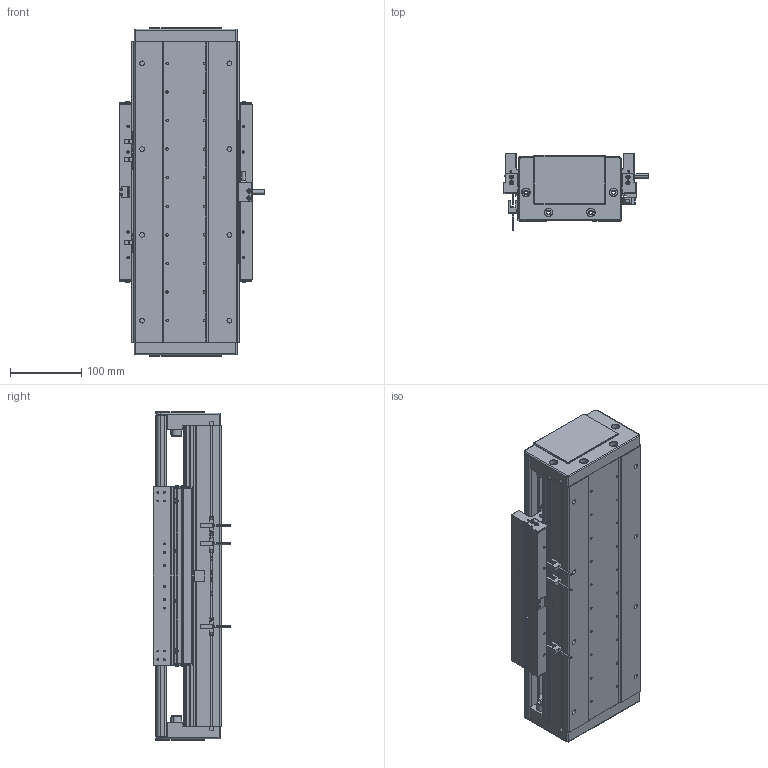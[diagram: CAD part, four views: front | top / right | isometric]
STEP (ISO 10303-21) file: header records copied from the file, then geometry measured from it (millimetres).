
FILE_DESCRIPTION (( 'STEP AP203' ), '1' );
FILE_NAME ('DA-C145-C3-T120-C010-0.2 眻盄萇儂.STEP', '2025-08-14T01:14:22', ( '' ), ( '' ), 'SwSTEP 2.0', 'SolidWorks 2019', '' );
FILE_SCHEMA (( 'CONFIG_CONTROL_DESIGN' ));
Length unit declared in the file: millimetre
Products named in the file (29): 66245-CU145-HT-W-00 賑雄怢啣(3D芞祧)(00); 葩璃 DA95-GT-T-00^IU-CU145-L 菁釱絳寢; 复件 半圆头内六角螺钉 M3×6^CU145-W 滚珠滑台; 葩璃 XD-U-02L 棠掑喜^DA-C145-C3-T-C010-0.2; IU-CU145-L 菁釱絳寢; 复件 DA95-MFP-01 密封片^CU145-W 滚珠滑台; 复件 DA145-C3-YB-B-00 压板B^CU145-W 滚珠滑台; 葩璃 DA145-T-003-00 裔啣^DA-C145-C3-T-C010-0.2; 复件 DA145-C3-DK-00 挡块^CU145-W 滚珠滑台; 葩璃 CKM03-W060-C1C2-TP-0.2^DA-C145-C3-T-C010-0.2; 葩璃 DMA-010-0.2 黍杅芛^DA-C145-C3-T-C010-0.2; 复件 DA95-DB-00  挡板^CU145-W 滚珠滑台; 葩璃 CKMA01-W060-TRL^DA-C145-C3-T-C010-0.2; TAY01-M8; 葩璃 DA145-C3-DP-A-00 菜えA^CU145-W 幗紩賑怢; 复件 内六角平端紧定螺钉 GB.T77-2000 M5×10^CU145-W 滚珠滑台; 葩璃 DA95-HXJ-00 遣喳砎蝶^DA-C145-C3-T-C010-0.2; 葩璃 鞠褒情蹟譫 M3^DA-C145-C3-T-C010-0.2; CU145-W 幗紩賑怢; 葩璃 DA145-DG-H-N-00 傷裔^DA-C145-C3-T-C010-0.2; 葩璃 PM-T45^DA-C145-C3-T-C010-0.2; 复件 DA95-HK-GT-00 滑块钢轨^CU145-W-00 一体化滑动台板; 葩璃 DA145-C3-DP-B-00 菜えB^CU145-W 幗紩賑怢; 复件 DA145-C3-YB-A-00 压板A^CU145-W 滚珠滑台; DA-C145-C3-T120-C010-0.2 眻盄萇儂; IU-CU145-L-00 菁釱(L420); 复件 DA145-GYP-00 光电感应片^DA-C145-C3-T-C010-0.2; CU145-W-00 珨极趙賑雄怢啣; 复件 纯铜油杯 6x6mm^CU145-W 滚珠滑台
Assembly tree (98 placements, depth 4):
  DA-C145-C3-T120-C010-0.2 眻盄萇儂
    IU-CU145-L 菁釱絳寢
      IU-CU145-L-00 菁釱(L420)
      葩璃 DA95-GT-T-00^IU-CU145-L 菁釱絳寢  x4
    CU145-W 幗紩賑怢
      CU145-W-00 珨极趙賑雄怢啣
        66245-CU145-HT-W-00 賑雄怢啣(3D芞祧)(00)
        复件 DA95-HK-GT-00 滑块钢轨^CU145-W-00 一体化滑动台板  x8
      复件 DA95-MFP-01 密封片^CU145-W 滚珠滑台  x8
      复件 DA95-DB-00  挡板^CU145-W 滚珠滑台  x8
      复件 内六角平端紧定螺钉 GB.T77-2000 M5×10^CU145-W 滚珠滑台  x4
      复件 纯铜油杯 6x6mm^CU145-W 滚珠滑台  x4
      复件 半圆头内六角螺钉 M3×6^CU145-W 滚珠滑台  x16
      复件 DA145-C3-DK-00 挡块^CU145-W 滚珠滑台  x4
      葩璃 DA145-C3-DP-B-00 菜えB^CU145-W 幗紩賑怢  x2
      复件 DA145-C3-YB-B-00 压板B^CU145-W 滚珠滑台  x2
      葩璃 DA145-C3-DP-A-00 菜えA^CU145-W 幗紩賑怢  x3
      复件 DA145-C3-YB-A-00 压板A^CU145-W 滚珠滑台  x3
      TAY01-M8  x4
    葩璃 CKMA01-W060-TRL^DA-C145-C3-T-C010-0.2
    葩璃 PM-T45^DA-C145-C3-T-C010-0.2  x3
    葩璃 XD-U-02L 棠掑喜^DA-C145-C3-T-C010-0.2
    葩璃 DA145-DG-H-N-00 傷裔^DA-C145-C3-T-C010-0.2  x2
    葩璃 DA145-T-003-00 裔啣^DA-C145-C3-T-C010-0.2
    葩璃 DA95-HXJ-00 遣喳砎蝶^DA-C145-C3-T-C010-0.2  x4
    复件 DA145-GYP-00 光电感应片^DA-C145-C3-T-C010-0.2
    葩璃 DMA-010-0.2 黍杅芛^DA-C145-C3-T-C010-0.2
    葩璃 CKM03-W060-C1C2-TP-0.2^DA-C145-C3-T-C010-0.2
    葩璃 鞠褒情蹟譫 M3^DA-C145-C3-T-C010-0.2  x8
Bounding box: 203.5 x 108.45 x 460 mm (x, y, z)
Volume: 4294220.4 mm3; surface area: 1120359.6 mm2
Topology: 95 solids, 127 shells, 3722 faces, 9543 edges, 5840 vertices
Faces by surface type: plane 1565, cylinder 1441, cone 626, torus 86, sphere 4
Entity records: 76689 total; most frequent: CARTESIAN_POINT 16860, DIRECTION 11805, ORIENTED_EDGE 11084, EDGE_CURVE 5542, AXIS2_PLACEMENT_3D 4370, VERTEX_POINT 3529, LINE 3065, VECTOR 3065
